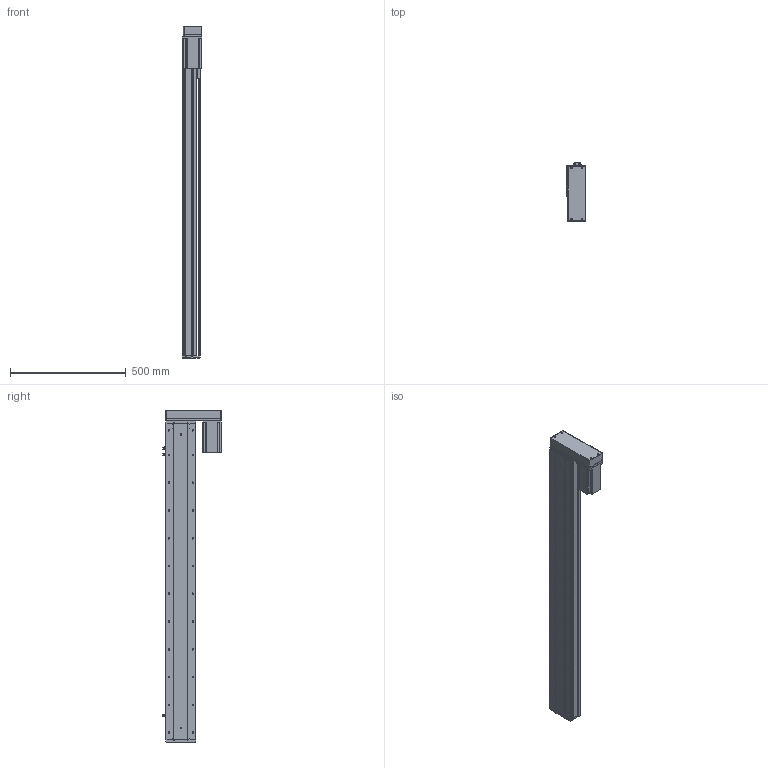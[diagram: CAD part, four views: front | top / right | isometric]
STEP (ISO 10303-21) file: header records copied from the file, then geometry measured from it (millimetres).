
FILE_DESCRIPTION (( 'STEP AP214' ), '1' );
FILE_NAME ('KSD130-P2010-S1150-MR-CM.STEP', '2019-09-17T08:56:09', ( '微软用户' ), ( '微软中国' ), 'SwSTEP 2.0', 'SolidWorks 2014', '' );
FILE_SCHEMA (( 'AUTOMOTIVE_DESIGN' ));
Length unit declared in the file: millimetre
Products named in the file (11): 130宽模组保护罩左右折; 台达ECMA－C20807AS伺服电机; 130宽模组马达安装板连板左右折丝杆; U倰嫖萇EEㄜSX672; 覜茼え100遵圉猾敕; 130宽盖板半封闭丝杠-1150行程; 130宽滚珠丝杆安装板半封闭-20丝杠; 130宽马达安装板半封闭; 130遵傷裔圉猾敕; 130宽底板半封闭丝杠-1150行程; KSD130-P2010-S1150-MR-CM
Assembly tree (12 placements, depth 2):
  KSD130-P2010-S1150-MR-CM
    130宽底板半封闭丝杠-1150行程
    130遵傷裔圉猾敕
    130宽马达安装板半封闭
    130宽滚珠丝杆安装板半封闭-20丝杠
    130宽盖板半封闭丝杠-1150行程
    覜茼え100遵圉猾敕
    U倰嫖萇EEㄜSX672  x3
    130宽模组马达安装板连板左右折丝杆
    台达ECMA－C20807AS伺服电机
    130宽模组保护罩左右折
Bounding box: 85 x 253.7 x 1435.5 mm (x, y, z)
Volume: 5161823.8 mm3; surface area: 1452591.8 mm2
Topology: 13 solids, 13 shells, 1470 faces, 4187 edges, 2657 vertices
Faces by surface type: cylinder 721, plane 574, cone 175
Entity records: 49531 total; most frequent: CARTESIAN_POINT 9654, DIRECTION 7189, ORIENTED_EDGE 6990, EDGE_CURVE 3495, AXIS2_PLACEMENT_3D 2624, VERTEX_POINT 2281, VECTOR 1941, LINE 1941
